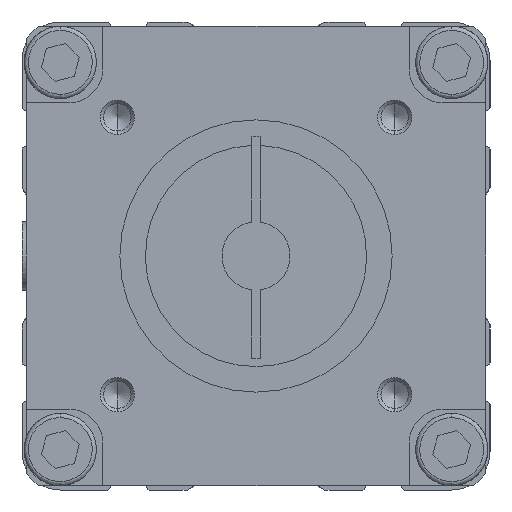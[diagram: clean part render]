
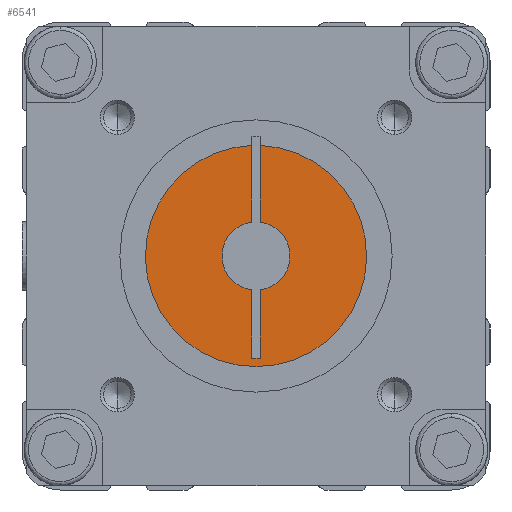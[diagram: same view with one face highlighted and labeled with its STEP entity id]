
A CAD part, left-side view. The second image highlights one B-rep face of the part: STEP entity #6541.
In plain terms, the highlighted planar face has unit normal (-1, 0, 0).
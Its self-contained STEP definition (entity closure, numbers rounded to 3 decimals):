
#167 = CIRCLE ( 'NONE', #8650, 13. ) ;
#196 = LINE ( 'NONE', #9855, #197 ) ;
#197 = VECTOR ( 'NONE', #9854, 1000. ) ;
#240 = CIRCLE ( 'NONE', #8657, 4. ) ;
#242 = LINE ( 'NONE', #9784, #243 ) ;
#243 = VECTOR ( 'NONE', #9783, 1000. ) ;
#246 = LINE ( 'NONE', #9779, #247 ) ;
#247 = VECTOR ( 'NONE', #9778, 1000. ) ;
#251 = CIRCLE ( 'NONE', #8658, 4. ) ;
#326 = LINE ( 'NONE', #9668, #327 ) ;
#327 = VECTOR ( 'NONE', #9667, 1000. ) ;
#332 = LINE ( 'NONE', #9661, #333 ) ;
#333 = VECTOR ( 'NONE', #9659, 1000. ) ;
#337 = CIRCLE ( 'NONE', #8660, 13. ) ;
#1908 = DIRECTION ( 'NONE',  ( 0., 0., 1. ) ) ;
#1911 = DIRECTION ( 'NONE',  ( -1., 0., 0. ) ) ;
#1913 = CARTESIAN_POINT ( 'NONE',  ( -446., 0., -6.5 ) ) ;
#1921 = PLANE ( 'NONE',  #8270 ) ;
#3390 = EDGE_LOOP ( 'NONE', ( #7427, #7426, #7425, #7424, #7423, #7422, #7421, #7420, #7419 ) ) ;
#5359 = VERTEX_POINT ( 'NONE', #5810 ) ;
#5373 = VERTEX_POINT ( 'NONE', #5817 ) ;
#5484 = VERTEX_POINT ( 'NONE', #5847 ) ;
#5519 = VERTEX_POINT ( 'NONE', #5857 ) ;
#5546 = VERTEX_POINT ( 'NONE', #5863 ) ;
#5645 = VERTEX_POINT ( 'NONE', #5876 ) ;
#5651 = VERTEX_POINT ( 'NONE', #5880 ) ;
#5681 = CARTESIAN_POINT ( 'NONE',  ( -446., 0., -13. ) ) ;
#5690 = CARTESIAN_POINT ( 'NONE',  ( -446., -0.5, 12.99 ) ) ;
#5810 = CARTESIAN_POINT ( 'NONE',  ( -446., 0.5, -3.969 ) ) ;
#5817 = CARTESIAN_POINT ( 'NONE',  ( -446., -0.5, 3.969 ) ) ;
#5847 = CARTESIAN_POINT ( 'NONE',  ( -446., 0.5, 12.99 ) ) ;
#5857 = CARTESIAN_POINT ( 'NONE',  ( -446., -0.5, -3.969 ) ) ;
#5863 = CARTESIAN_POINT ( 'NONE',  ( -446., 0.5, 3.969 ) ) ;
#5876 = CARTESIAN_POINT ( 'NONE',  ( -446., 0.5, -12. ) ) ;
#5880 = CARTESIAN_POINT ( 'NONE',  ( -446., -0.5, -12. ) ) ;
#6242 = VERTEX_POINT ( 'NONE', #5690 ) ;
#6248 = VERTEX_POINT ( 'NONE', #5681 ) ;
#6541 = ADVANCED_FACE ( 'NONE', ( #7719 ), #1921, .T. ) ;
#7419 = ORIENTED_EDGE ( 'NONE', *, *, #9019, .T. ) ;
#7420 = ORIENTED_EDGE ( 'NONE', *, *, #9044, .T. ) ;
#7421 = ORIENTED_EDGE ( 'NONE', *, *, #9042, .T. ) ;
#7422 = ORIENTED_EDGE ( 'NONE', *, *, #9090, .T. ) ;
#7423 = ORIENTED_EDGE ( 'NONE', *, *, #9002, .F. ) ;
#7424 = ORIENTED_EDGE ( 'NONE', *, *, #9092, .F. ) ;
#7425 = ORIENTED_EDGE ( 'NONE', *, *, #9087, .T. ) ;
#7426 = ORIENTED_EDGE ( 'NONE', *, *, #9048, .T. ) ;
#7427 = ORIENTED_EDGE ( 'NONE', *, *, #9046, .T. ) ;
#7719 = FACE_OUTER_BOUND ( 'NONE', #3390, .T. ) ;
#8270 = AXIS2_PLACEMENT_3D ( 'NONE', #1913, #1911, #1908 ) ;
#8650 = AXIS2_PLACEMENT_3D ( 'NONE', #9905, #9903, #9902 ) ;
#8657 = AXIS2_PLACEMENT_3D ( 'NONE', #9791, #9790, #9789 ) ;
#8658 = AXIS2_PLACEMENT_3D ( 'NONE', #9774, #9773, #9772 ) ;
#8660 = AXIS2_PLACEMENT_3D ( 'NONE', #9655, #9654, #9653 ) ;
#9002 = EDGE_CURVE ( 'NONE', #6242, #6248, #167, .T. ) ;
#9019 = EDGE_CURVE ( 'NONE', #5651, #5645, #196, .T. ) ;
#9042 = EDGE_CURVE ( 'NONE', #5373, #5519, #240, .T. ) ;
#9044 = EDGE_CURVE ( 'NONE', #5519, #5651, #242, .T. ) ;
#9046 = EDGE_CURVE ( 'NONE', #5645, #5359, #246, .T. ) ;
#9048 = EDGE_CURVE ( 'NONE', #5359, #5546, #251, .T. ) ;
#9087 = EDGE_CURVE ( 'NONE', #5546, #5484, #326, .T. ) ;
#9090 = EDGE_CURVE ( 'NONE', #6242, #5373, #332, .T. ) ;
#9092 = EDGE_CURVE ( 'NONE', #6248, #5484, #337, .T. ) ;
#9653 = DIRECTION ( 'NONE',  ( 0., 0., -1. ) ) ;
#9654 = DIRECTION ( 'NONE',  ( 1., 0., 0. ) ) ;
#9655 = CARTESIAN_POINT ( 'NONE',  ( -446., 0., 0. ) ) ;
#9659 = DIRECTION ( 'NONE',  ( 0., 0., -1. ) ) ;
#9661 = CARTESIAN_POINT ( 'NONE',  ( -446., -0.5, -6.5 ) ) ;
#9667 = DIRECTION ( 'NONE',  ( 0., 0., 1. ) ) ;
#9668 = CARTESIAN_POINT ( 'NONE',  ( -446., 0.5, -6.5 ) ) ;
#9772 = DIRECTION ( 'NONE',  ( 0., 0., 1. ) ) ;
#9773 = DIRECTION ( 'NONE',  ( 1., 0., 0. ) ) ;
#9774 = CARTESIAN_POINT ( 'NONE',  ( -446., 0., 0. ) ) ;
#9778 = DIRECTION ( 'NONE',  ( 0., 0., 1. ) ) ;
#9779 = CARTESIAN_POINT ( 'NONE',  ( -446., 0.5, -6.5 ) ) ;
#9783 = DIRECTION ( 'NONE',  ( 0., 0., -1. ) ) ;
#9784 = CARTESIAN_POINT ( 'NONE',  ( -446., -0.5, -6.5 ) ) ;
#9789 = DIRECTION ( 'NONE',  ( 0., 0., 1. ) ) ;
#9790 = DIRECTION ( 'NONE',  ( 1., 0., 0. ) ) ;
#9791 = CARTESIAN_POINT ( 'NONE',  ( -446., 0., 0. ) ) ;
#9854 = DIRECTION ( 'NONE',  ( 0., 1., 0. ) ) ;
#9855 = CARTESIAN_POINT ( 'NONE',  ( -446., 0.5, -12. ) ) ;
#9902 = DIRECTION ( 'NONE',  ( 0., 0., -1. ) ) ;
#9903 = DIRECTION ( 'NONE',  ( 1., 0., 0. ) ) ;
#9905 = CARTESIAN_POINT ( 'NONE',  ( -446., 0., 0. ) ) ;
